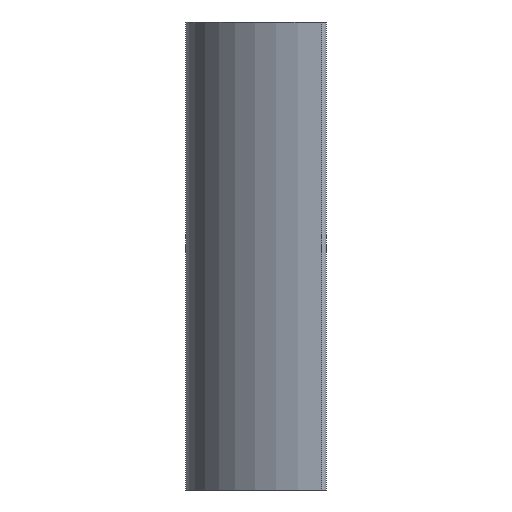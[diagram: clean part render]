
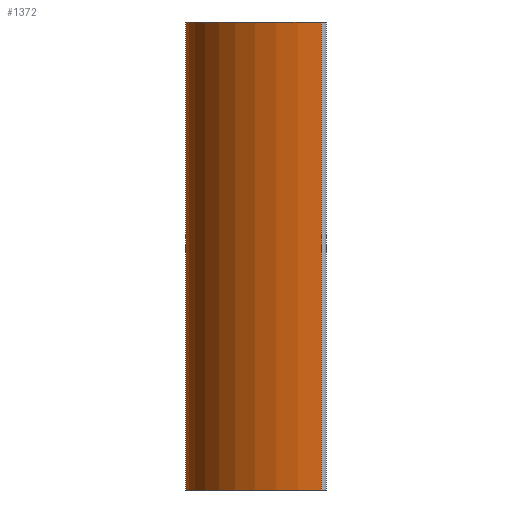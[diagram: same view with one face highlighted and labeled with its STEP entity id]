
A CAD part, left-side view. The second image highlights one B-rep face of the part: STEP entity #1372.
In plain terms, the highlighted cylindrical face has radius 30 mm (diameter 60 mm), a partial arc.
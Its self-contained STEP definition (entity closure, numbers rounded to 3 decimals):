
#16 = CYLINDRICAL_SURFACE ( 'NONE', #1991, 30. ) ;
#144 = CIRCLE ( 'NONE', #889, 30. ) ;
#174 = LINE ( 'NONE', #2097, #801 ) ;
#224 = VERTEX_POINT ( 'NONE', #2017 ) ;
#261 = DIRECTION ( 'NONE',  ( 1., 0., 0. ) ) ;
#293 = DIRECTION ( 'NONE',  ( 0., 0., 1. ) ) ;
#329 = DIRECTION ( 'NONE',  ( 0., 0., 1. ) ) ;
#333 = EDGE_CURVE ( 'NONE', #2041, #768, #144, .T. ) ;
#341 = DIRECTION ( 'NONE',  ( 1., 0., 0. ) ) ;
#508 = FACE_OUTER_BOUND ( 'NONE', #2106, .T. ) ;
#546 = ORIENTED_EDGE ( 'NONE', *, *, #895, .F. ) ;
#742 = CARTESIAN_POINT ( 'NONE',  ( 13.957, 14.991, 0. ) ) ;
#768 = VERTEX_POINT ( 'NONE', #2249 ) ;
#801 = VECTOR ( 'NONE', #831, 1000. ) ;
#809 = ORIENTED_EDGE ( 'NONE', *, *, #1817, .T. ) ;
#831 = DIRECTION ( 'NONE',  ( 0., 0., 1. ) ) ;
#843 = CARTESIAN_POINT ( 'NONE',  ( 14.991, -14.991, -100. ) ) ;
#885 = VECTOR ( 'NONE', #293, 1000. ) ;
#889 = AXIS2_PLACEMENT_3D ( 'NONE', #1134, #1832, #261 ) ;
#895 = EDGE_CURVE ( 'NONE', #224, #2041, #1387, .T. ) ;
#1010 = DIRECTION ( 'NONE',  ( 1., 0., 0. ) ) ;
#1105 = ORIENTED_EDGE ( 'NONE', *, *, #333, .F. ) ;
#1134 = CARTESIAN_POINT ( 'NONE',  ( 14.991, -14.991, 0. ) ) ;
#1211 = CARTESIAN_POINT ( 'NONE',  ( 13.957, 14.991, -100. ) ) ;
#1218 = CARTESIAN_POINT ( 'NONE',  ( 14.991, -14.991, -100. ) ) ;
#1372 = ADVANCED_FACE ( 'NONE', ( #508 ), #16, .T. ) ;
#1387 = LINE ( 'NONE', #1211, #885 ) ;
#1675 = CARTESIAN_POINT ( 'NONE',  ( -14.991, -13.957, -100. ) ) ;
#1687 = ORIENTED_EDGE ( 'NONE', *, *, #1801, .T. ) ;
#1732 = VERTEX_POINT ( 'NONE', #1675 ) ;
#1801 = EDGE_CURVE ( 'NONE', #224, #1732, #1987, .T. ) ;
#1805 = AXIS2_PLACEMENT_3D ( 'NONE', #1218, #329, #1010 ) ;
#1817 = EDGE_CURVE ( 'NONE', #1732, #768, #174, .T. ) ;
#1832 = DIRECTION ( 'NONE',  ( 0., 0., 1. ) ) ;
#1987 = CIRCLE ( 'NONE', #1805, 30. ) ;
#1991 = AXIS2_PLACEMENT_3D ( 'NONE', #843, #2099, #341 ) ;
#2017 = CARTESIAN_POINT ( 'NONE',  ( 13.957, 14.991, -100. ) ) ;
#2041 = VERTEX_POINT ( 'NONE', #742 ) ;
#2097 = CARTESIAN_POINT ( 'NONE',  ( -14.991, -13.957, -100. ) ) ;
#2099 = DIRECTION ( 'NONE',  ( 0., 0., 1. ) ) ;
#2106 = EDGE_LOOP ( 'NONE', ( #1105, #546, #1687, #809 ) ) ;
#2249 = CARTESIAN_POINT ( 'NONE',  ( -14.991, -13.957, 0. ) ) ;
